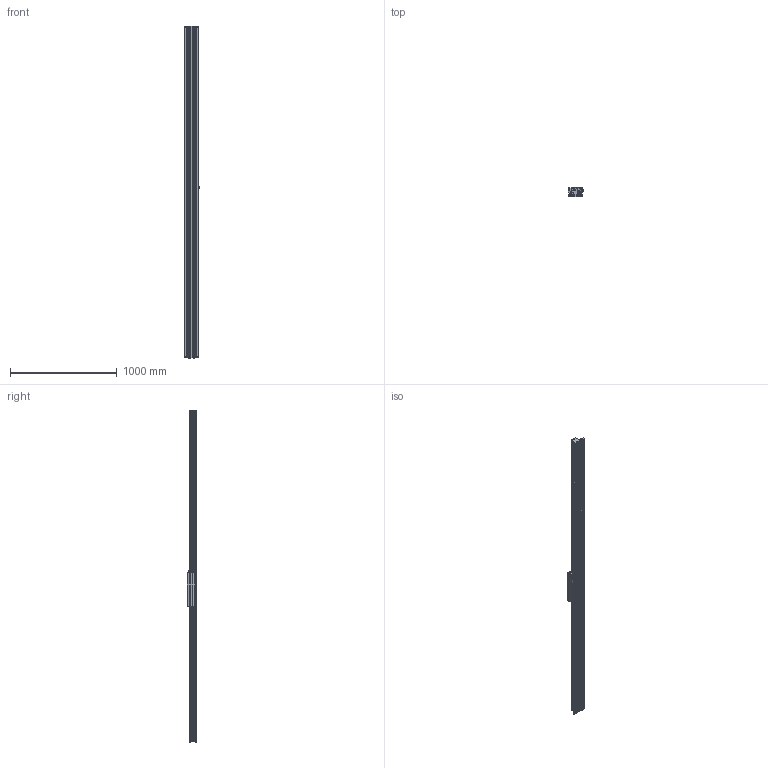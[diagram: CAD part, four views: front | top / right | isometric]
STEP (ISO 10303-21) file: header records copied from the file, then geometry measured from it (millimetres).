
FILE_DESCRIPTION (( 'STEP AP214' ), '1' );
FILE_NAME ('SINADRIVES Linear motor stage MLL20400XS-XX-1-0-ST-00-03108.STEP', '2015-07-06T11:57:45', ( 'Tecnico' ), ( '' ), 'SwSTEP 2.0', 'SolidWorks 2009', '' );
FILE_SCHEMA (( 'AUTOMOTIVE_DESIGN' ));
Length unit declared in the file: millimetre
Products named in the file (7): SINADRIVES PROFILE MLL2XXXX-3092; SINADRIVES CARRIAGE MLL20400XS-1; CARRIAGE MLL20400; Connector power+signal Y-tec 45; SINADRIVES ENDBLOCK MLL2; SINADRIVES ENDBLOCK MLL2-2; SINADRIVES Linear motor stage MLL20400XS-XX-1-0-ST-00-03108
Assembly tree (6 placements, depth 3):
  SINADRIVES Linear motor stage MLL20400XS-XX-1-0-ST-00-03108
    SINADRIVES ENDBLOCK MLL2-2
    SINADRIVES ENDBLOCK MLL2
    SINADRIVES CARRIAGE MLL20400XS-1
      CARRIAGE MLL20400
      Connector power+signal Y-tec 45
    SINADRIVES PROFILE MLL2XXXX-3092
Bounding box: 144.43 x 91 x 3116.8 mm (x, y, z)
Volume: 14182572.4 mm3; surface area: 2433104.6 mm2
Topology: 2 solids, 42 shells, 950 faces, 2640 edges, 1730 vertices
Faces by surface type: plane 445, cylinder 302, bspline 79, cone 70, torus 42, sphere 12
Entity records: 40587 total; most frequent: CARTESIAN_POINT 8656, ORIENTED_EDGE 5024, DIRECTION 4947, EDGE_CURVE 2622, AXIS2_PLACEMENT_3D 1781, VERTEX_POINT 1730, LINE 1385, VECTOR 1385
